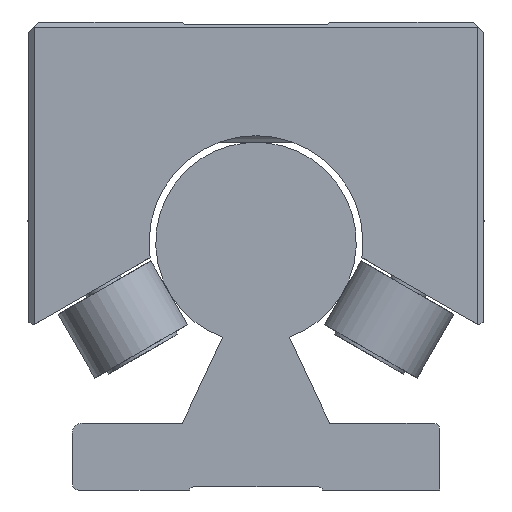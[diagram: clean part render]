
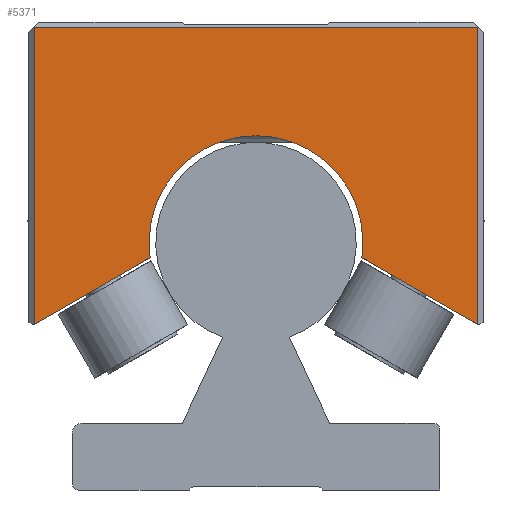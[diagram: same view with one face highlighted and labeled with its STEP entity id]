
A CAD part, left-side view. The second image highlights one B-rep face of the part: STEP entity #5371.
In plain terms, the highlighted planar face has unit normal (-1, 0, 0).
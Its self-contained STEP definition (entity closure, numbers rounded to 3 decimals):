
#5252=CARTESIAN_POINT('',(-45.0,33.2,-12.24));
#5253=VERTEX_POINT('',#5252);
#5260=CARTESIAN_POINT('',(-45.0,33.2,32.2));
#5261=VERTEX_POINT('',#5260);
#5262=CARTESIAN_POINT('',(-45.0,33.2,-12.24));
#5263=DIRECTION('',(0.0,0.0,1.0));
#5264=VECTOR('',#5263,44.44);
#5265=LINE('',#5262,#5264);
#5266=EDGE_CURVE('',#5253,#5261,#5265,.T.);
#5324=CARTESIAN_POINT('',(-45.0,22.5,32.85));
#5325=DIRECTION('',(1.0,0.0,0.0));
#5326=DIRECTION('',(0.0,0.0,-1.0));
#5327=AXIS2_PLACEMENT_3D('',#5324,#5325,#5326);
#5328=PLANE('',#5327);
#5329=ORIENTED_EDGE('',*,*,#5266,.F.);
#5330=CARTESIAN_POINT('',(-45.0,15.845,-2.22));
#5331=VERTEX_POINT('',#5330);
#5332=CARTESIAN_POINT('',(-45.0,15.845,-2.22));
#5333=DIRECTION('',(0.0,0.866,-0.5));
#5334=VECTOR('',#5333,20.04);
#5335=LINE('',#5332,#5334);
#5336=EDGE_CURVE('',#5331,#5253,#5335,.T.);
#5337=ORIENTED_EDGE('',*,*,#5336,.F.);
#5338=CARTESIAN_POINT('',(-45.0,-15.845,-2.22));
#5339=VERTEX_POINT('',#5338);
#5340=CARTESIAN_POINT('',(-45.0,0.0,0.0));
#5341=DIRECTION('',(-1.0,0.0,0.0));
#5342=DIRECTION('',(0.0,-1.0,0.0));
#5343=AXIS2_PLACEMENT_3D('',#5340,#5341,#5342);
#5344=CIRCLE('',#5343,16.0);
#5345=EDGE_CURVE('',#5339,#5331,#5344,.T.);
#5346=ORIENTED_EDGE('',*,*,#5345,.F.);
#5347=CARTESIAN_POINT('',(-45.0,-33.2,-12.24));
#5348=VERTEX_POINT('',#5347);
#5349=CARTESIAN_POINT('',(-45.0,-33.2,-12.24));
#5350=DIRECTION('',(0.0,0.866,0.5));
#5351=VECTOR('',#5350,20.04);
#5352=LINE('',#5349,#5351);
#5353=EDGE_CURVE('',#5348,#5339,#5352,.T.);
#5354=ORIENTED_EDGE('',*,*,#5353,.F.);
#5355=CARTESIAN_POINT('',(-45.0,-33.2,32.2));
#5356=VERTEX_POINT('',#5355);
#5357=CARTESIAN_POINT('',(-45.0,-33.2,32.2));
#5358=DIRECTION('',(0.0,0.0,-1.0));
#5359=VECTOR('',#5358,44.44);
#5360=LINE('',#5357,#5359);
#5361=EDGE_CURVE('',#5356,#5348,#5360,.T.);
#5362=ORIENTED_EDGE('',*,*,#5361,.F.);
#5363=CARTESIAN_POINT('',(-45.0,33.2,32.2));
#5364=DIRECTION('',(0.0,-1.0,0.0));
#5365=VECTOR('',#5364,66.4);
#5366=LINE('',#5363,#5365);
#5367=EDGE_CURVE('',#5261,#5356,#5366,.T.);
#5368=ORIENTED_EDGE('',*,*,#5367,.F.);
#5369=EDGE_LOOP('',(#5329,#5337,#5346,#5354,#5362,#5368));
#5370=FACE_OUTER_BOUND('',#5369,.T.);
#5371=ADVANCED_FACE('',(#5370),#5328,.F.);
